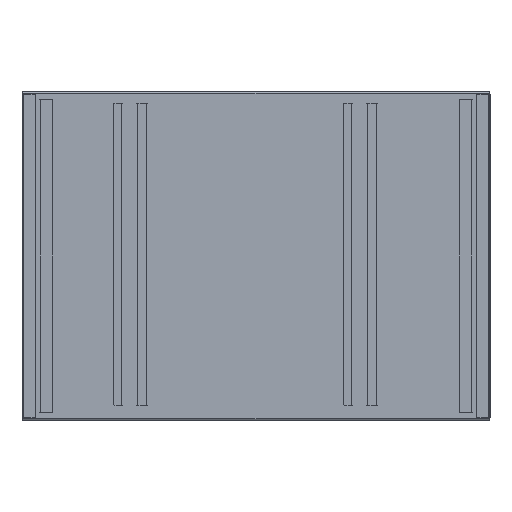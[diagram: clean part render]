
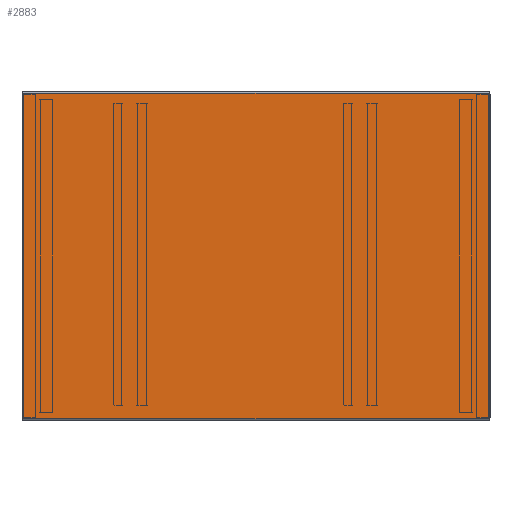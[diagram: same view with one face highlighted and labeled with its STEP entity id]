
A CAD part, left-side view. The second image highlights one B-rep face of the part: STEP entity #2883.
In plain terms, the highlighted planar face has unit normal (-1, 0, 0).
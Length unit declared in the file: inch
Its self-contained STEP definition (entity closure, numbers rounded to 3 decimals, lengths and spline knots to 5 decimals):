
#290=DIRECTION('',(0.,1.,0.));
#291=VECTOR('',#290,35.5);
#292=CARTESIAN_POINT('',(-0.06,-17.75,-12.371));
#293=LINE('',#292,#291);
#320=DIRECTION('',(0.,-1.,0.));
#321=VECTOR('',#320,35.5);
#322=CARTESIAN_POINT('',(-0.06,17.75,12.371));
#323=LINE('',#322,#321);
#1099=DIRECTION('',(0.,0.,-1.));
#1100=VECTOR('',#1099,24.742);
#1101=CARTESIAN_POINT('',(-0.06,17.75,12.371));
#1102=LINE('',#1101,#1100);
#1103=DIRECTION('',(0.,0.,1.));
#1104=VECTOR('',#1103,24.742);
#1105=CARTESIAN_POINT('',(-0.06,-17.75,-12.371));
#1106=LINE('',#1105,#1104);
#1319=CARTESIAN_POINT('',(-0.06,17.75,12.371));
#1320=CARTESIAN_POINT('',(-0.06,17.75,-12.371));
#1321=VERTEX_POINT('',#1319);
#1322=VERTEX_POINT('',#1320);
#1323=CARTESIAN_POINT('',(-0.06,-17.75,-12.371));
#1324=CARTESIAN_POINT('',(-0.06,-17.75,12.371));
#1325=VERTEX_POINT('',#1323);
#1326=VERTEX_POINT('',#1324);
#2872=CARTESIAN_POINT('',(-0.06,0.,0.));
#2873=DIRECTION('',(-1.,0.,0.));
#2874=DIRECTION('',(0.,0.,1.));
#2875=AXIS2_PLACEMENT_3D('',#2872,#2873,#2874);
#2876=PLANE('',#2875);
#2877=ORIENTED_EDGE('',*,*,#1772,.T.);
#2878=ORIENTED_EDGE('',*,*,#1800,.F.);
#2879=ORIENTED_EDGE('',*,*,#1830,.T.);
#2880=ORIENTED_EDGE('',*,*,#2386,.F.);
#2881=EDGE_LOOP('',(#2877,#2878,#2879,#2880));
#2882=FACE_OUTER_BOUND('',#2881,.F.);
#2883=ADVANCED_FACE('',(#2882),#2876,.T.);
#1772=EDGE_CURVE('',#1325,#1322,#293,.T.);
#1800=EDGE_CURVE('',#1321,#1322,#1102,.T.);
#1830=EDGE_CURVE('',#1321,#1326,#323,.T.);
#2386=EDGE_CURVE('',#1325,#1326,#1106,.T.);
